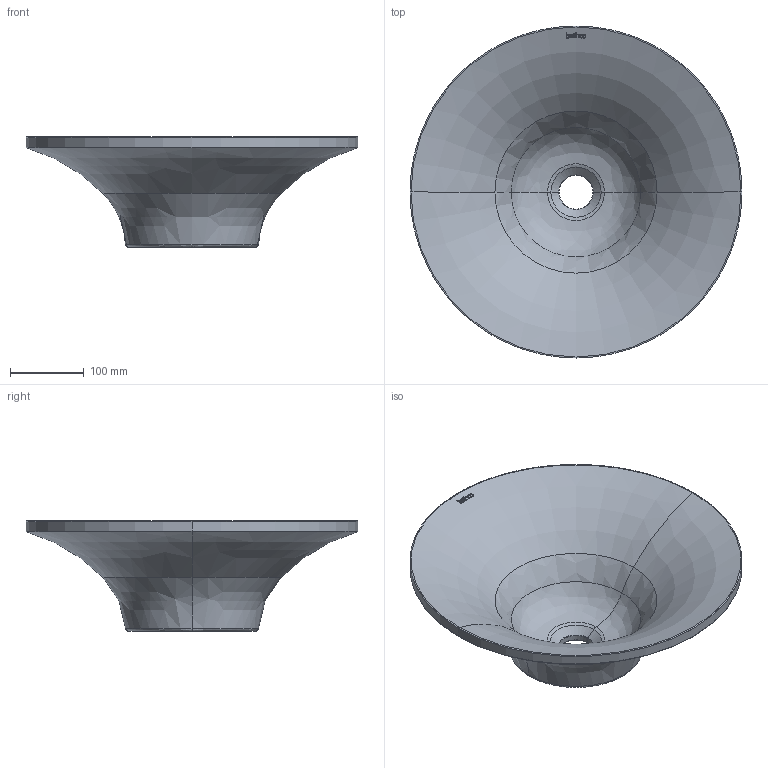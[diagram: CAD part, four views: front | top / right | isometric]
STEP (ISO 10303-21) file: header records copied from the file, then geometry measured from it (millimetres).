
FILE_DESCRIPTION(/* description */ (''),/* implementation_level */ '2;1');
FILE_NAME(/* name */ '8334_Bulnes',/* time_stamp */ '2025-01-22T12:34:16+01:00',/* author */ (''),/* organization */ (''),/* preprocessor_version */ 'ST-DEVELOPER v19.2',/* originating_system */ 'Rhino 8.14',/* authorisation */ '');
FILE_SCHEMA (('CONFIG_CONTROL_DESIGN'));
Length unit declared in the file: millimetre
Products named in the file (1): Document
Bounding box: 450 x 450 x 149.71 mm (x, y, z)
Volume: 2948076.2 mm3; surface area: 428732.3 mm2
Topology: 7 solids, 7 shells, 115 faces, 255 edges, 152 vertices
Faces by surface type: bspline 74, plane 33, cylinder 8
Entity records: 6267 total; most frequent: CARTESIAN_POINT 4142, ORIENTED_EDGE 510, EDGE_CURVE 255, DIRECTION 237, VERTEX_POINT 152, AXIS2_PLACEMENT_3D 139, B_SPLINE_CURVE_WITH_KNOTS 126, EDGE_LOOP 121
